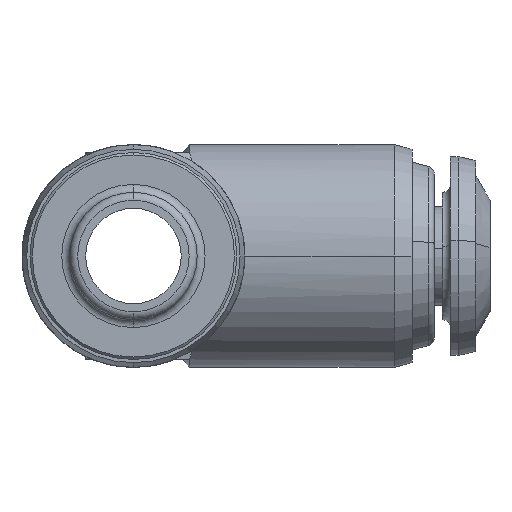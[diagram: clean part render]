
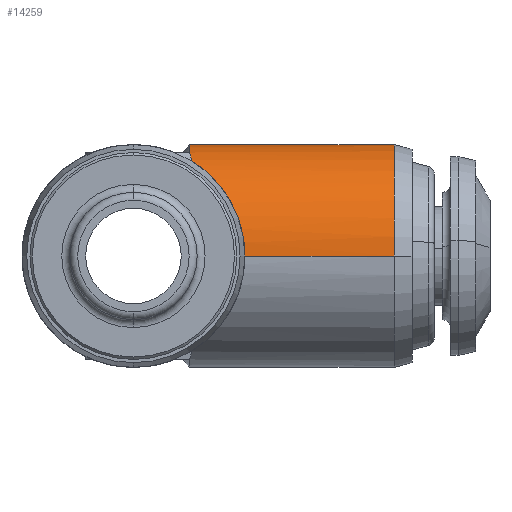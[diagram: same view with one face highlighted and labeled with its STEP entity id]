
A CAD part, left-side view. The second image highlights one B-rep face of the part: STEP entity #14259.
In plain terms, the highlighted cylindrical face has radius 7 mm (diameter 14 mm), a partial arc.
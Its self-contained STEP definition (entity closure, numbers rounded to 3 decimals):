
#9 = CARTESIAN_POINT ( 'NONE',  ( 3.72, 1.334, 6.003 ) ) ;
#90 = EDGE_CURVE ( 'NONE', #7888, #749, #2422, .T. ) ;
#200 = CIRCLE ( 'NONE', #19632, 7. ) ;
#230 = CARTESIAN_POINT ( 'NONE',  ( -3.481, 1.334, 6.003 ) ) ;
#312 = CARTESIAN_POINT ( 'NONE',  ( -3.161, 1.385, 6.195 ) ) ;
#547 = CARTESIAN_POINT ( 'NONE',  ( 7.119, -2.009, 0. ) ) ;
#749 = VERTEX_POINT ( 'NONE', #15870 ) ;
#815 = CARTESIAN_POINT ( 'NONE',  ( -2.826, 1.43, 6.361 ) ) ;
#993 = CARTESIAN_POINT ( 'NONE',  ( 3.065, 1.43, 6.361 ) ) ;
#1335 = CARTESIAN_POINT ( 'NONE',  ( -2.479, 1.467, 6.5 ) ) ;
#1666 = EDGE_CURVE ( 'NONE', #749, #1743, #5686, .T. ) ;
#1743 = VERTEX_POINT ( 'NONE', #8725 ) ;
#1892 = DIRECTION ( 'NONE',  ( 0., 1., 0. ) ) ;
#2008 = CARTESIAN_POINT ( 'NONE',  ( -6.881, 4.991, 0. ) ) ;
#2115 = VERTEX_POINT ( 'NONE', #4013 ) ;
#2237 = EDGE_CURVE ( 'NONE', #2115, #4094, #8545, .T. ) ;
#2271 = FACE_OUTER_BOUND ( 'NONE', #8602, .T. ) ;
#2422 = LINE ( 'NONE', #2008, #14802 ) ;
#2677 = ORIENTED_EDGE ( 'NONE', *, *, #1666, .F. ) ;
#3317 = ORIENTED_EDGE ( 'NONE', *, *, #16601, .T. ) ;
#3497 = CARTESIAN_POINT ( 'NONE',  ( 5.888, -0.778, 4.691 ) ) ;
#3742 = VERTEX_POINT ( 'NONE', #547 ) ;
#4013 = CARTESIAN_POINT ( 'NONE',  ( 3.744, 1.367, 5.989 ) ) ;
#4094 = VERTEX_POINT ( 'NONE', #9 ) ;
#4120 = AXIS2_PLACEMENT_3D ( 'NONE', #18023, #11828, #8617 ) ;
#4498 = ORIENTED_EDGE ( 'NONE', *, *, #16493, .F. ) ;
#5078 = CARTESIAN_POINT ( 'NONE',  ( 0.119, -11.389, 0. ) ) ;
#5229 = CARTESIAN_POINT ( 'NONE',  ( -3.489, 1.345, 5.998 ) ) ;
#5339 = ORIENTED_EDGE ( 'NONE', *, *, #14210, .T. ) ;
#5686 =( BOUNDED_CURVE ( )  B_SPLINE_CURVE ( 3, ( #18775, #18526, #19566, #19623 ),
 .UNSPECIFIED., .F., .T. ) 
 B_SPLINE_CURVE_WITH_KNOTS ( ( 4, 4 ),
 ( 3.142, 4.168 ),
 .UNSPECIFIED. ) 
 CURVE ( )  GEOMETRIC_REPRESENTATION_ITEM ( )  RATIONAL_B_SPLINE_CURVE ( ( 1., 0.914, 0.914, 1. ) ) 
 REPRESENTATION_ITEM ( '' )  );
#5939 = EDGE_CURVE ( 'NONE', #16088, #8232, #20136, .T. ) ;
#6027 = CIRCLE ( 'NONE', #18096, 7. ) ;
#6687 = DIRECTION ( 'NONE',  ( -1., 0., 0. ) ) ;
#6897 = CARTESIAN_POINT ( 'NONE',  ( -3.505, 1.367, 5.989 ) ) ;
#6902 = DIRECTION ( 'NONE',  ( 0., 1., 0. ) ) ;
#7435 = CARTESIAN_POINT ( 'NONE',  ( 3.72, 1.334, 6.003 ) ) ;
#7517 = CARTESIAN_POINT ( 'NONE',  ( 0.119, 1.467, 0. ) ) ;
#7835 = VERTEX_POINT ( 'NONE', #19972 ) ;
#7848 = VERTEX_POINT ( 'NONE', #16100 ) ;
#7888 = VERTEX_POINT ( 'NONE', #15964 ) ;
#8098 = CARTESIAN_POINT ( 'NONE',  ( 3.744, 1.367, 5.989 ) ) ;
#8138 =( BOUNDED_CURVE ( )  B_SPLINE_CURVE ( 3, ( #19391, #5229, #16423, #6897 ),
 .UNSPECIFIED., .F., .F. ) 
 B_SPLINE_CURVE_WITH_KNOTS ( ( 4, 4 ),
 ( 5.553, 5.557 ),
 .UNSPECIFIED. ) 
 CURVE ( )  GEOMETRIC_REPRESENTATION_ITEM ( )  RATIONAL_B_SPLINE_CURVE ( ( 1., 1., 1., 1. ) ) 
 REPRESENTATION_ITEM ( '' )  );
#8232 = VERTEX_POINT ( 'NONE', #11763 ) ;
#8408 = CARTESIAN_POINT ( 'NONE',  ( 7.119, -2.009, 2.507 ) ) ;
#8545 =( BOUNDED_CURVE ( )  B_SPLINE_CURVE ( 3, ( #8098, #14345, #16077, #15673 ),
 .UNSPECIFIED., .F., .T. ) 
 B_SPLINE_CURVE_WITH_KNOTS ( ( 4, 4 ),
 ( 0.727, 0.73 ),
 .UNSPECIFIED. ) 
 CURVE ( )  GEOMETRIC_REPRESENTATION_ITEM ( )  RATIONAL_B_SPLINE_CURVE ( ( 1., 1., 1., 1. ) ) 
 REPRESENTATION_ITEM ( '' )  );
#8602 = EDGE_LOOP ( 'NONE', ( #17766, #5339, #4498, #8995, #14182, #20429, #20549, #3317, #2677, #16824 ) ) ;
#8617 = DIRECTION ( 'NONE',  ( -1., 0., 0. ) ) ;
#8725 = CARTESIAN_POINT ( 'NONE',  ( -3.505, 1.367, 5.989 ) ) ;
#8995 = ORIENTED_EDGE ( 'NONE', *, *, #2237, .T. ) ;
#9094 = CARTESIAN_POINT ( 'NONE',  ( -2.479, 1.467, 6.5 ) ) ;
#9171 = DIRECTION ( 'NONE',  ( -1., 0., 0. ) ) ;
#10943 = LINE ( 'NONE', #11759, #15114 ) ;
#11759 = CARTESIAN_POINT ( 'NONE',  ( 7.119, 4.991, 0. ) ) ;
#11763 = CARTESIAN_POINT ( 'NONE',  ( -3.481, 1.334, 6.003 ) ) ;
#11828 = DIRECTION ( 'NONE',  ( 0., 1., 0. ) ) ;
#11911 =( BOUNDED_CURVE ( )  B_SPLINE_CURVE ( 3, ( #17568, #3497, #8408, #19328 ),
 .UNSPECIFIED., .F., .F. ) 
 B_SPLINE_CURVE_WITH_KNOTS ( ( 4, 4 ),
 ( 2.115, 3.142 ),
 .UNSPECIFIED. ) 
 CURVE ( )  GEOMETRIC_REPRESENTATION_ITEM ( )  RATIONAL_B_SPLINE_CURVE ( ( 1., 0.914, 0.914, 1. ) ) 
 REPRESENTATION_ITEM ( '' )  );
#12425 = CARTESIAN_POINT ( 'NONE',  ( 2.718, 1.467, 6.5 ) ) ;
#12464 = EDGE_CURVE ( 'NONE', #4094, #7848, #13113, .T. ) ;
#13113 =( BOUNDED_CURVE ( )  B_SPLINE_CURVE ( 3, ( #7435, #19944, #993, #12425 ),
 .UNSPECIFIED., .F., .T. ) 
 B_SPLINE_CURVE_WITH_KNOTS ( ( 4, 4 ),
 ( 5.743, 5.903 ),
 .UNSPECIFIED. ) 
 CURVE ( )  GEOMETRIC_REPRESENTATION_ITEM ( )  RATIONAL_B_SPLINE_CURVE ( ( 1., 0.998, 0.998, 1. ) ) 
 REPRESENTATION_ITEM ( '' )  );
#14182 = ORIENTED_EDGE ( 'NONE', *, *, #12464, .T. ) ;
#14210 = EDGE_CURVE ( 'NONE', #7835, #3742, #10943, .T. ) ;
#14259 = ADVANCED_FACE ( 'NONE', ( #2271 ), #17296, .T. ) ;
#14345 = CARTESIAN_POINT ( 'NONE',  ( 3.736, 1.356, 5.993 ) ) ;
#14802 = VECTOR ( 'NONE', #1892, 1000. ) ;
#15114 = VECTOR ( 'NONE', #6902, 1000. ) ;
#15455 = EDGE_CURVE ( 'NONE', #7888, #7835, #6027, .T. ) ;
#15673 = CARTESIAN_POINT ( 'NONE',  ( 3.72, 1.334, 6.003 ) ) ;
#15870 = CARTESIAN_POINT ( 'NONE',  ( -6.881, -2.009, 0. ) ) ;
#15964 = CARTESIAN_POINT ( 'NONE',  ( -6.881, -11.389, 0. ) ) ;
#16077 = CARTESIAN_POINT ( 'NONE',  ( 3.728, 1.345, 5.998 ) ) ;
#16088 = VERTEX_POINT ( 'NONE', #9094 ) ;
#16100 = CARTESIAN_POINT ( 'NONE',  ( 2.718, 1.467, 6.5 ) ) ;
#16222 = DIRECTION ( 'NONE',  ( 0., 1., 0. ) ) ;
#16423 = CARTESIAN_POINT ( 'NONE',  ( -3.497, 1.356, 5.993 ) ) ;
#16493 = EDGE_CURVE ( 'NONE', #2115, #3742, #11911, .T. ) ;
#16601 = EDGE_CURVE ( 'NONE', #8232, #1743, #8138, .T. ) ;
#16824 = ORIENTED_EDGE ( 'NONE', *, *, #90, .F. ) ;
#17296 = CYLINDRICAL_SURFACE ( 'NONE', #4120, 7. ) ;
#17568 = CARTESIAN_POINT ( 'NONE',  ( 3.744, 1.367, 5.989 ) ) ;
#17750 = EDGE_CURVE ( 'NONE', #16088, #7848, #200, .T. ) ;
#17766 = ORIENTED_EDGE ( 'NONE', *, *, #15455, .T. ) ;
#18023 = CARTESIAN_POINT ( 'NONE',  ( 0.119, 4.991, 0. ) ) ;
#18096 = AXIS2_PLACEMENT_3D ( 'NONE', #5078, #16222, #6687 ) ;
#18526 = CARTESIAN_POINT ( 'NONE',  ( -6.881, -2.009, 2.507 ) ) ;
#18541 = DIRECTION ( 'NONE',  ( 0., 1., 0. ) ) ;
#18775 = CARTESIAN_POINT ( 'NONE',  ( -6.881, -2.009, 0. ) ) ;
#19328 = CARTESIAN_POINT ( 'NONE',  ( 7.119, -2.009, 0. ) ) ;
#19391 = CARTESIAN_POINT ( 'NONE',  ( -3.481, 1.334, 6.003 ) ) ;
#19566 = CARTESIAN_POINT ( 'NONE',  ( -5.65, -0.778, 4.691 ) ) ;
#19623 = CARTESIAN_POINT ( 'NONE',  ( -3.505, 1.367, 5.989 ) ) ;
#19632 = AXIS2_PLACEMENT_3D ( 'NONE', #7517, #18541, #9171 ) ;
#19944 = CARTESIAN_POINT ( 'NONE',  ( 3.4, 1.385, 6.195 ) ) ;
#19972 = CARTESIAN_POINT ( 'NONE',  ( 7.119, -11.389, 0. ) ) ;
#20136 =( BOUNDED_CURVE ( )  B_SPLINE_CURVE ( 3, ( #1335, #815, #312, #230 ),
 .UNSPECIFIED., .F., .T. ) 
 B_SPLINE_CURVE_WITH_KNOTS ( ( 4, 4 ),
 ( 0.38, 0.54 ),
 .UNSPECIFIED. ) 
 CURVE ( )  GEOMETRIC_REPRESENTATION_ITEM ( )  RATIONAL_B_SPLINE_CURVE ( ( 1., 0.998, 0.998, 1. ) ) 
 REPRESENTATION_ITEM ( '' )  );
#20429 = ORIENTED_EDGE ( 'NONE', *, *, #17750, .F. ) ;
#20549 = ORIENTED_EDGE ( 'NONE', *, *, #5939, .T. ) ;
